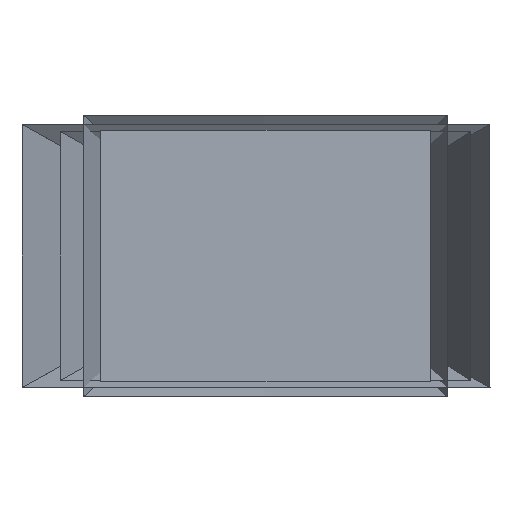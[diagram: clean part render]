
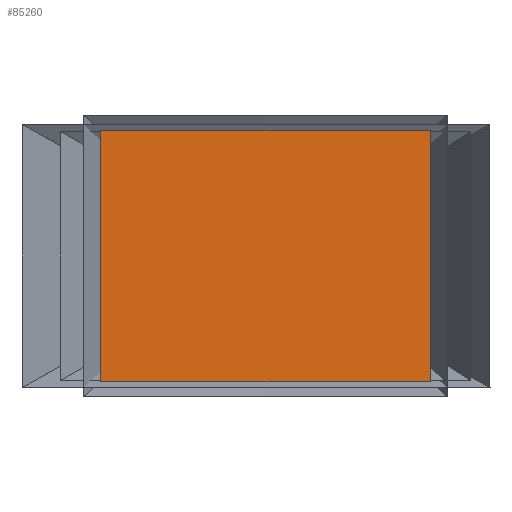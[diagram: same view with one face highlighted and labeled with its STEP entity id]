
A CAD part, front view. The second image highlights one B-rep face of the part: STEP entity #85260.
In plain terms, the highlighted planar face has unit normal (0, -1, 0).
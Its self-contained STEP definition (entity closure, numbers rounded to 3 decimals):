
#85121=DIRECTION('',(0.,0.,-1.));
#85122=VECTOR('',#85121,320.);
#85123=CARTESIAN_POINT('',(-460.,-535.25,142.05));
#85124=LINE('',#85123,#85122);
#85141=DIRECTION('',(0.,0.,-1.));
#85142=VECTOR('',#85141,320.);
#85143=CARTESIAN_POINT('',(-40.,-535.25,142.05));
#85144=LINE('',#85143,#85142);
#85145=DIRECTION('',(-1.,0.,0.));
#85146=VECTOR('',#85145,420.);
#85147=CARTESIAN_POINT('',(-40.,-535.25,-177.95));
#85148=LINE('',#85147,#85146);
#85153=DIRECTION('',(-1.,0.,0.));
#85154=VECTOR('',#85153,420.);
#85155=CARTESIAN_POINT('',(-40.,-535.25,142.05));
#85156=LINE('',#85155,#85154);
#85169=CARTESIAN_POINT('',(-460.,-535.25,142.05));
#85170=VERTEX_POINT('',#85169);
#85171=CARTESIAN_POINT('',(-460.,-535.25,-177.95));
#85172=VERTEX_POINT('',#85171);
#85177=CARTESIAN_POINT('',(-40.,-535.25,-177.95));
#85178=VERTEX_POINT('',#85177);
#85179=CARTESIAN_POINT('',(-40.,-535.25,142.05));
#85180=VERTEX_POINT('',#85179);
#85247=CARTESIAN_POINT('',(-40.,-535.25,142.05));
#85248=DIRECTION('',(0.,-1.,0.));
#85249=DIRECTION('',(-1.,0.,0.));
#85250=AXIS2_PLACEMENT_3D('',#85247,#85248,#85249);
#85251=PLANE('',#85250);
#85252=ORIENTED_EDGE('',*,*,#85190,.F.);
#85254=ORIENTED_EDGE('',*,*,#85253,.F.);
#85256=ORIENTED_EDGE('',*,*,#85255,.T.);
#85257=ORIENTED_EDGE('',*,*,#85233,.T.);
#85258=EDGE_LOOP('',(#85252,#85254,#85256,#85257));
#85259=FACE_OUTER_BOUND('',#85258,.F.);
#85260=ADVANCED_FACE('',(#85259),#85251,.T.);
#85190=EDGE_CURVE('',#85170,#85172,#85124,.T.);
#85233=EDGE_CURVE('',#85178,#85172,#85148,.T.);
#85253=EDGE_CURVE('',#85180,#85170,#85156,.T.);
#85255=EDGE_CURVE('',#85180,#85178,#85144,.T.);
